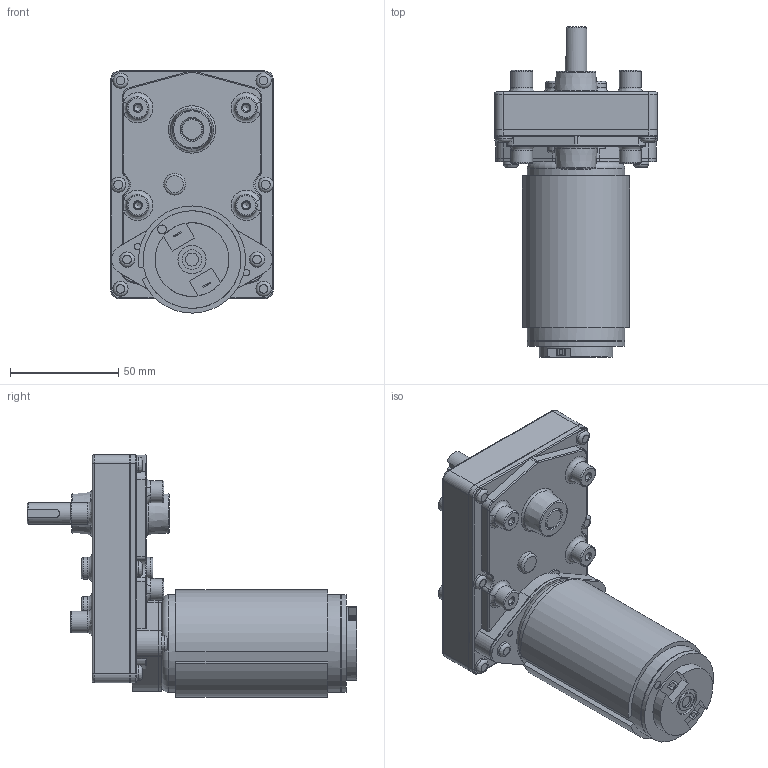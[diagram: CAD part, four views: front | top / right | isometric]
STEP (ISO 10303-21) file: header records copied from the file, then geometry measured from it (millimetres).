
FILE_DESCRIPTION((''),'2;1');
FILE_NAME('C:\Documents and Settings\SSEGAWA\デスクトップ\TP-4990A-LGL.STP','2013-07-29T17:45:15',('SSEGAWA'),(''),'Autodesk Inventor 2010','Autodesk Inventor 2010','');
FILE_SCHEMA(('CONFIG_CONTROL_DESIGN'));
Length unit declared in the file: millimetre
Products named in the file (1): tp_4990a_lgl_Shrinkwrap_1
Bounding box: 75 x 152.1 x 111.7 mm (x, y, z)
Volume: 379998.6 mm3; surface area: 46255.7 mm2
Topology: 1 solids, 4 shells, 300 faces, 698 edges, 437 vertices
Faces by surface type: plane 110, cylinder 83, bspline 56, torus 38, cone 13
Full cylindrical faces by diameter (mm): 3 x2, 4 x1, 6 x1, 7 x4, 9 x3, 10 x11, 13 x1, 34 x1, 44.6 x1, 45 x2
Entity records: 9214 total; most frequent: CARTESIAN_POINT 2661, DIRECTION 1327, ORIENTED_EDGE 1132, EDGE_CURVE 566, AXIS2_PLACEMENT_3D 532, EDGE_LOOP 433, VERTEX_POINT 403, STYLED_ITEM 301
